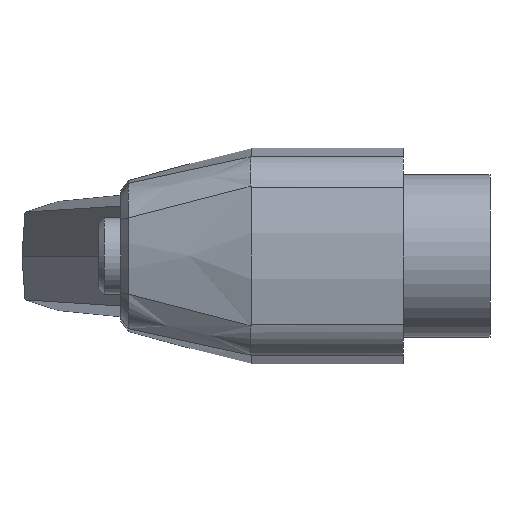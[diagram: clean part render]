
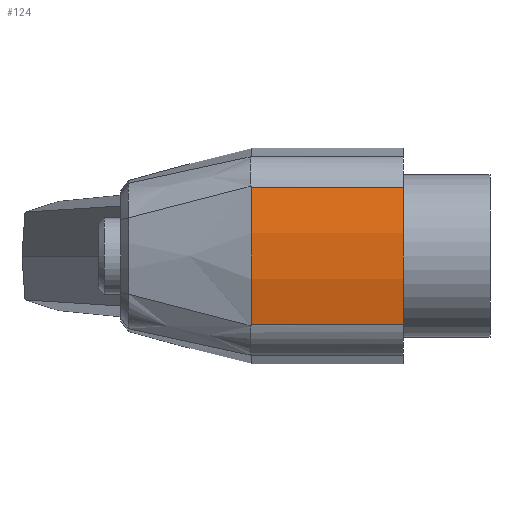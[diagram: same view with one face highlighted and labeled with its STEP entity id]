
A CAD part, left-side view. The second image highlights one B-rep face of the part: STEP entity #124.
In plain terms, the highlighted cylindrical face has radius 24.533 mm (diameter 49.066 mm), a partial arc.
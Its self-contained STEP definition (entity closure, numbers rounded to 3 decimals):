
#10 = ORIENTED_EDGE ( 'NONE', *, *, #1056, .T. ) ;
#71 = FACE_OUTER_BOUND ( 'NONE', #1728, .T. ) ;
#90 = CARTESIAN_POINT ( 'NONE',  ( -9.168, 14., -6.336 ) ) ;
#124 = ADVANCED_FACE ( 'NONE', ( #71 ), #1999, .T. ) ;
#183 = CARTESIAN_POINT ( 'NONE',  ( -9.168, 0., -6.336 ) ) ;
#185 = VERTEX_POINT ( 'NONE', #863 ) ;
#205 = EDGE_CURVE ( 'NONE', #1251, #500, #557, .T. ) ;
#303 = DIRECTION ( 'NONE',  ( 0., 0., -1. ) ) ;
#396 = DIRECTION ( 'NONE',  ( 0., 0., -1. ) ) ;
#401 = AXIS2_PLACEMENT_3D ( 'NONE', #1981, #529, #1506 ) ;
#408 = DIRECTION ( 'NONE',  ( 0., -1., 0. ) ) ;
#500 = VERTEX_POINT ( 'NONE', #1010 ) ;
#529 = DIRECTION ( 'NONE',  ( 0., 1., 0. ) ) ;
#542 = CARTESIAN_POINT ( 'NONE',  ( -9.168, 14., -6.336 ) ) ;
#557 = CIRCLE ( 'NONE', #401, 24.533 ) ;
#575 = DIRECTION ( 'NONE',  ( 0., 1., 0. ) ) ;
#785 = LINE ( 'NONE', #542, #1645 ) ;
#863 = CARTESIAN_POINT ( 'NONE',  ( -9.168, 14., 6.336 ) ) ;
#1010 = CARTESIAN_POINT ( 'NONE',  ( -9.168, 0., 6.336 ) ) ;
#1039 = LINE ( 'NONE', #1683, #1232 ) ;
#1056 = EDGE_CURVE ( 'NONE', #500, #185, #1039, .T. ) ;
#1232 = VECTOR ( 'NONE', #575, 1000. ) ;
#1251 = VERTEX_POINT ( 'NONE', #183 ) ;
#1314 = EDGE_CURVE ( 'NONE', #1777, #1251, #785, .T. ) ;
#1380 = ORIENTED_EDGE ( 'NONE', *, *, #1966, .F. ) ;
#1415 = DIRECTION ( 'NONE',  ( 0., 1., 0. ) ) ;
#1432 = AXIS2_PLACEMENT_3D ( 'NONE', #1492, #408, #396 ) ;
#1492 = CARTESIAN_POINT ( 'NONE',  ( 14.533, 14., 0. ) ) ;
#1506 = DIRECTION ( 'NONE',  ( 0., 0., 1. ) ) ;
#1612 = AXIS2_PLACEMENT_3D ( 'NONE', #1718, #1415, #303 ) ;
#1631 = ORIENTED_EDGE ( 'NONE', *, *, #1314, .T. ) ;
#1632 = DIRECTION ( 'NONE',  ( 0., -1., 0. ) ) ;
#1645 = VECTOR ( 'NONE', #1632, 1000. ) ;
#1683 = CARTESIAN_POINT ( 'NONE',  ( -9.168, 14., 6.336 ) ) ;
#1718 = CARTESIAN_POINT ( 'NONE',  ( 14.533, 14., 0. ) ) ;
#1728 = EDGE_LOOP ( 'NONE', ( #1380, #1631, #1901, #10 ) ) ;
#1777 = VERTEX_POINT ( 'NONE', #90 ) ;
#1901 = ORIENTED_EDGE ( 'NONE', *, *, #205, .T. ) ;
#1966 = EDGE_CURVE ( 'NONE', #1777, #185, #1995, .T. ) ;
#1981 = CARTESIAN_POINT ( 'NONE',  ( 14.533, 0., 0. ) ) ;
#1995 = CIRCLE ( 'NONE', #1612, 24.533 ) ;
#1999 = CYLINDRICAL_SURFACE ( 'NONE', #1432, 24.533 ) ;
